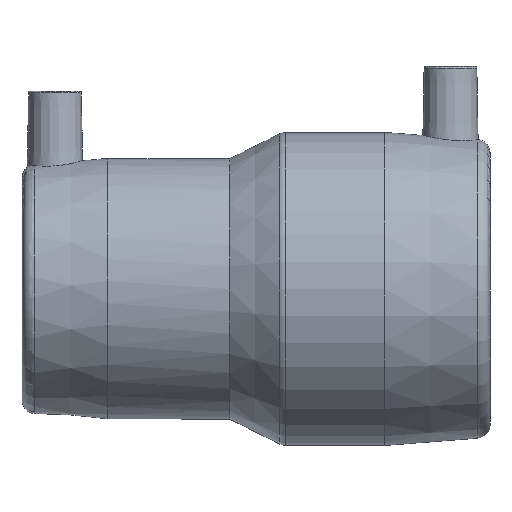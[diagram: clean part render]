
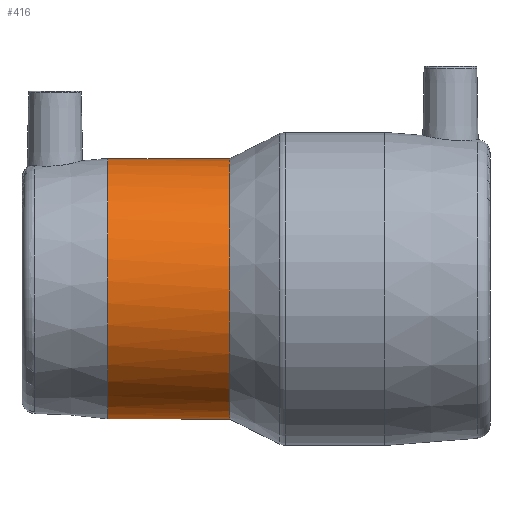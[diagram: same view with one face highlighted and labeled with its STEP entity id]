
A CAD part, front view. The second image highlights one B-rep face of the part: STEP entity #416.
In plain terms, the highlighted cylindrical face has radius 39.5 mm (diameter 79 mm), a full revolution.
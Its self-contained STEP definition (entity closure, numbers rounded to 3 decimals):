
#57=CYLINDRICAL_SURFACE('',#474,39.5);
#78=CIRCLE('',#473,39.5);
#79=CIRCLE('',#475,39.5);
#115=ORIENTED_EDGE('',*,*,#202,.T.);
#116=ORIENTED_EDGE('',*,*,#203,.F.);
#202=EDGE_CURVE('',#246,#246,#78,.T.);
#203=EDGE_CURVE('',#247,#247,#79,.T.);
#246=VERTEX_POINT('',#730);
#247=VERTEX_POINT('',#733);
#288=EDGE_LOOP('',(#115));
#289=EDGE_LOOP('',(#116));
#352=FACE_BOUND('',#288,.T.);
#353=FACE_BOUND('',#289,.T.);
#416=ADVANCED_FACE('',(#352,#353),#57,.T.);
#473=AXIS2_PLACEMENT_3D('',#729,#555,#556);
#474=AXIS2_PLACEMENT_3D('',#731,#557,#558);
#475=AXIS2_PLACEMENT_3D('',#732,#559,#560);
#555=DIRECTION('',(-1.,0.,0.));
#556=DIRECTION('',(0.,0.,1.));
#557=DIRECTION('',(-1.,0.,0.));
#558=DIRECTION('',(0.,0.,1.));
#559=DIRECTION('',(-1.,0.,0.));
#560=DIRECTION('',(0.,0.,1.));
#729=CARTESIAN_POINT('',(-8.,0.,0.));
#730=CARTESIAN_POINT('',(-8.,0.,39.5));
#731=CARTESIAN_POINT('',(-60.,0.,0.));
#732=CARTESIAN_POINT('',(-45.,0.,0.));
#733=CARTESIAN_POINT('',(-45.,0.,39.5));
